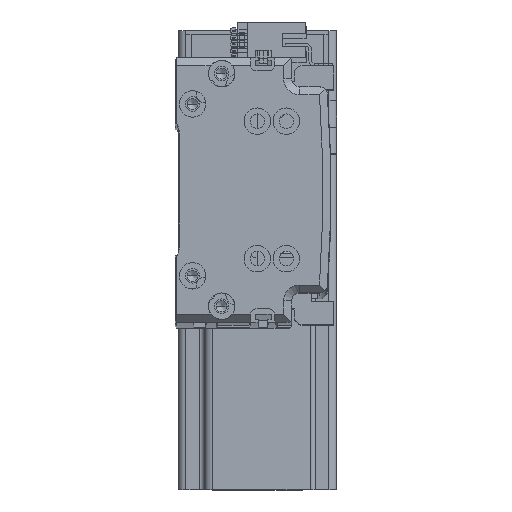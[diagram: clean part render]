
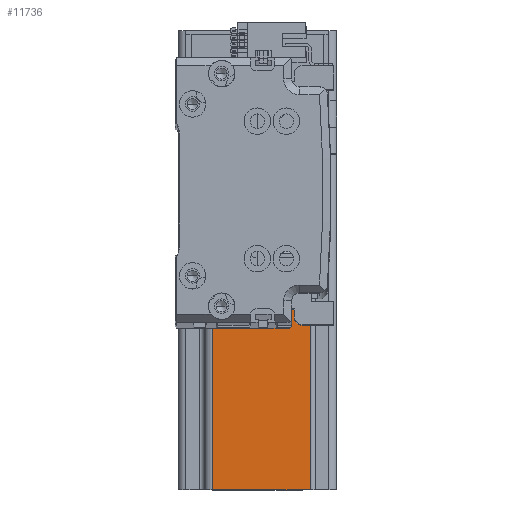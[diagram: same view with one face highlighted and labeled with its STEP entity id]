
A CAD part, top view. The second image highlights one B-rep face of the part: STEP entity #11736.
In plain terms, the highlighted planar face has unit normal (0, 0, 1) as drawn and (-1, 0, 0) by its records, which use the part's own axes.
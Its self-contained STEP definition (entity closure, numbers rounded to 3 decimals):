
#707 = EDGE_CURVE ( 'NONE', #25515, #8302, #45835, .T. ) ;
#1071 = VERTEX_POINT ( 'NONE', #44539 ) ;
#2956 = CARTESIAN_POINT ( 'NONE',  ( -30., -27., 0. ) ) ;
#3994 = LINE ( 'NONE', #32828, #37535 ) ;
#4797 = VECTOR ( 'NONE', #15321, 1000. ) ;
#5531 = CARTESIAN_POINT ( 'NONE',  ( -30., -30., 137. ) ) ;
#5766 = VERTEX_POINT ( 'NONE', #51356 ) ;
#6622 = DIRECTION ( 'NONE',  ( 0., 0., 1. ) ) ;
#7574 = CARTESIAN_POINT ( 'NONE',  ( -30., 20., 10. ) ) ;
#8302 = VERTEX_POINT ( 'NONE', #2956 ) ;
#9349 = VECTOR ( 'NONE', #52860, 1000. ) ;
#9936 = LINE ( 'NONE', #26638, #9349 ) ;
#9963 = EDGE_CURVE ( 'NONE', #11550, #25515, #20015, .T. ) ;
#10590 = ORIENTED_EDGE ( 'NONE', *, *, #707, .T. ) ;
#11051 = CARTESIAN_POINT ( 'NONE',  ( -30., -17., 10. ) ) ;
#11550 = VERTEX_POINT ( 'NONE', #56275 ) ;
#11736 = ADVANCED_FACE ( 'NONE', ( #36893 ), #35354, .F. ) ;
#12601 = LINE ( 'NONE', #5531, #24234 ) ;
#12895 = CARTESIAN_POINT ( 'NONE',  ( -30., 20., 137. ) ) ;
#13230 = CARTESIAN_POINT ( 'NONE',  ( -30., -30., 0. ) ) ;
#13768 = DIRECTION ( 'NONE',  ( 1., 0., 0. ) ) ;
#14495 = ORIENTED_EDGE ( 'NONE', *, *, #9963, .T. ) ;
#15321 = DIRECTION ( 'NONE',  ( 0., 1., 0. ) ) ;
#16087 = AXIS2_PLACEMENT_3D ( 'NONE', #39922, #13768, #44374 ) ;
#17543 = CARTESIAN_POINT ( 'NONE',  ( -30., -30., 10. ) ) ;
#19439 = CARTESIAN_POINT ( 'NONE',  ( -30., 27., 0. ) ) ;
#20003 = CARTESIAN_POINT ( 'NONE',  ( -30., -27., 10. ) ) ;
#20015 = LINE ( 'NONE', #23928, #26135 ) ;
#23928 = CARTESIAN_POINT ( 'NONE',  ( -30., 27., 137. ) ) ;
#24234 = VECTOR ( 'NONE', #36130, 1000. ) ;
#25515 = VERTEX_POINT ( 'NONE', #19439 ) ;
#25738 = VERTEX_POINT ( 'NONE', #12895 ) ;
#26135 = VECTOR ( 'NONE', #32728, 1000. ) ;
#26638 = CARTESIAN_POINT ( 'NONE',  ( -30., -17., 137. ) ) ;
#27084 = ORIENTED_EDGE ( 'NONE', *, *, #55195, .F. ) ;
#28084 = LINE ( 'NONE', #41510, #4797 ) ;
#29036 = EDGE_CURVE ( 'NONE', #56533, #5766, #9936, .T. ) ;
#30426 = VERTEX_POINT ( 'NONE', #20003 ) ;
#31314 = LINE ( 'NONE', #17543, #54600 ) ;
#32728 = DIRECTION ( 'NONE',  ( 0., 0., -1. ) ) ;
#32828 = CARTESIAN_POINT ( 'NONE',  ( -30., -27., 137. ) ) ;
#32861 = ORIENTED_EDGE ( 'NONE', *, *, #51322, .F. ) ;
#34442 = ORIENTED_EDGE ( 'NONE', *, *, #39310, .T. ) ;
#35354 = PLANE ( 'NONE',  #16087 ) ;
#35388 = DIRECTION ( 'NONE',  ( 0., -1., 0. ) ) ;
#36130 = DIRECTION ( 'NONE',  ( 0., -1., 0. ) ) ;
#36893 = FACE_OUTER_BOUND ( 'NONE', #41421, .T. ) ;
#37535 = VECTOR ( 'NONE', #6622, 1000. ) ;
#39310 = EDGE_CURVE ( 'NONE', #8302, #30426, #3994, .T. ) ;
#39406 = ORIENTED_EDGE ( 'NONE', *, *, #44687, .F. ) ;
#39922 = CARTESIAN_POINT ( 'NONE',  ( -30., -30., 137. ) ) ;
#40029 = VECTOR ( 'NONE', #55769, 1000. ) ;
#41421 = EDGE_LOOP ( 'NONE', ( #39406, #49726, #32861, #27084, #52689, #14495, #10590, #34442 ) ) ;
#41510 = CARTESIAN_POINT ( 'NONE',  ( -30., 30., 10. ) ) ;
#44374 = DIRECTION ( 'NONE',  ( 0., 0., -1. ) ) ;
#44479 = VECTOR ( 'NONE', #35388, 1000. ) ;
#44539 = CARTESIAN_POINT ( 'NONE',  ( -30., 20., 10. ) ) ;
#44687 = EDGE_CURVE ( 'NONE', #56533, #30426, #31314, .T. ) ;
#45835 = LINE ( 'NONE', #13230, #44479 ) ;
#48112 = DIRECTION ( 'NONE',  ( 0., -1., 0. ) ) ;
#49726 = ORIENTED_EDGE ( 'NONE', *, *, #29036, .T. ) ;
#51322 = EDGE_CURVE ( 'NONE', #25738, #5766, #12601, .T. ) ;
#51356 = CARTESIAN_POINT ( 'NONE',  ( -30., -17., 137. ) ) ;
#52689 = ORIENTED_EDGE ( 'NONE', *, *, #53092, .T. ) ;
#52860 = DIRECTION ( 'NONE',  ( 0., 0., 1. ) ) ;
#53075 = LINE ( 'NONE', #7574, #40029 ) ;
#53092 = EDGE_CURVE ( 'NONE', #1071, #11550, #28084, .T. ) ;
#54600 = VECTOR ( 'NONE', #48112, 1000. ) ;
#55195 = EDGE_CURVE ( 'NONE', #1071, #25738, #53075, .T. ) ;
#55769 = DIRECTION ( 'NONE',  ( 0., 0., 1. ) ) ;
#56275 = CARTESIAN_POINT ( 'NONE',  ( -30., 27., 10. ) ) ;
#56533 = VERTEX_POINT ( 'NONE', #11051 ) ;
